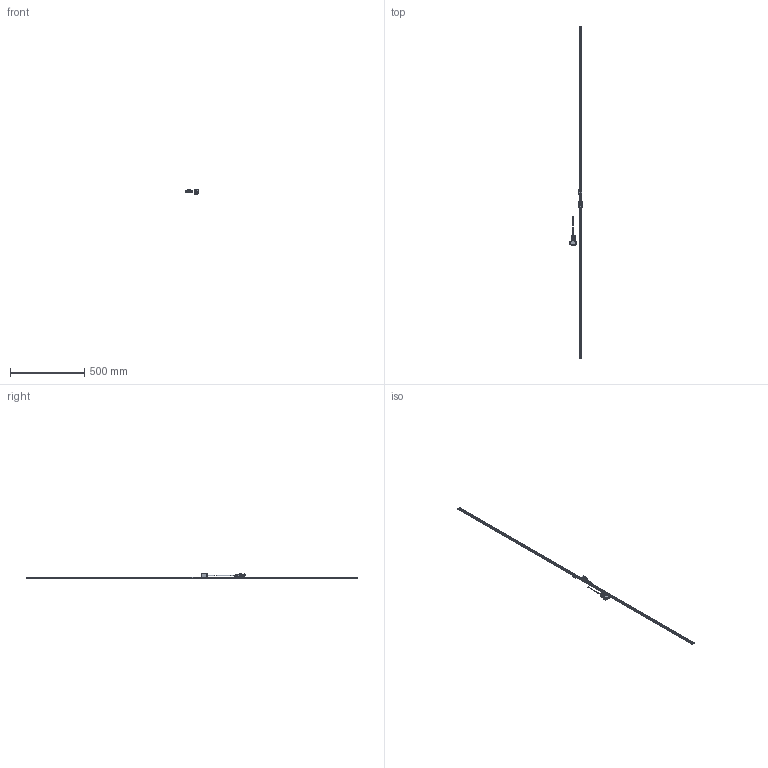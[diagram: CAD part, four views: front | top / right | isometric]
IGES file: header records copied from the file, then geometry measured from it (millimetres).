
Start section: Elysium IGES Interface
Global section: file name: 92HK:\20_商品設計\設計１課\個人\山室\05_作業中雑務\20220810_ST1300 3D HP掲載\ST1300-2200F_G.igs; native system: Creo Elements/Direct Modeling 18.1I  13-Aug-2016; preprocessor: Creo Element/Direct IGES_3D V2.2; author: Unknown; organization: Unknown; date: 20220816.111340; units: millimetre
Bounding box: 83 x 2240 x 30.1 mm (x, y, z)
Volume: 204918.6 mm3; surface area: 120551.4 mm2
Topology: 3 solids, 6 shells, 3742 faces, 10226 edges, 6646 vertices
Faces by surface type: bspline 3742
